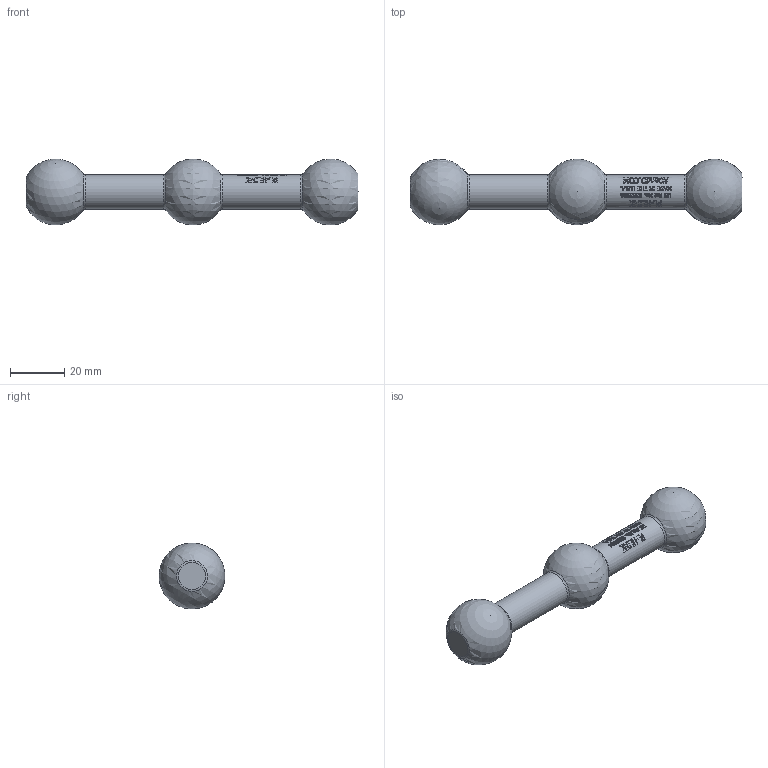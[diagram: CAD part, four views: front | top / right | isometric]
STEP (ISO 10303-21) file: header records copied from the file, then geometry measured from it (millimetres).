
FILE_DESCRIPTION(/* description */ (''),/* implementation_level */ '2;1');
FILE_NAME(/* name */ 'C:\Users\owner\Desktop\PL-HYPERLINKS_3D_stp\PL-HLINK4IN.stp',/* time_stamp */ '2017-09-29T14:58:21-04:00',/* author */ ('owner'),/* organization */ (''),/* preprocessor_version */ 'ST-DEVELOPER v16.5',/* originating_system */ 'Autodesk Inventor 2017',/* authorisation */ '');
FILE_SCHEMA (('CONFIG_CONTROL_DESIGN'));
Length unit declared in the file: inch
Products named in the file (4): PL-HLINK4IN; 60033-1; 60032; 60033-2
Assembly tree (3 placements, depth 2):
  PL-HLINK4IN
    60033-1
    60032
    60033-2
Bounding box: 122.63 x 24.3 x 24.37 mm (x, y, z)
Volume: 28246.3 mm3; surface area: 9905.6 mm2
Topology: 3 solids, 3 shells, 748 faces, 2015 edges, 1340 vertices
Faces by surface type: plane 353, bspline 301, cylinder 74, torus 9, cone 8, sphere 3
Full cylindrical faces by diameter (mm): 9.487 x2, 9.525 x3, 9.588 x2, 12.611 x2
Entity records: 29042 total; most frequent: CARTESIAN_POINT 11941, ORIENTED_EDGE 3956, DIRECTION 2702, EDGE_CURVE 1978, VERTEX_POINT 1326, LINE 966, VECTOR 966, AXIS2_PLACEMENT_3D 868
